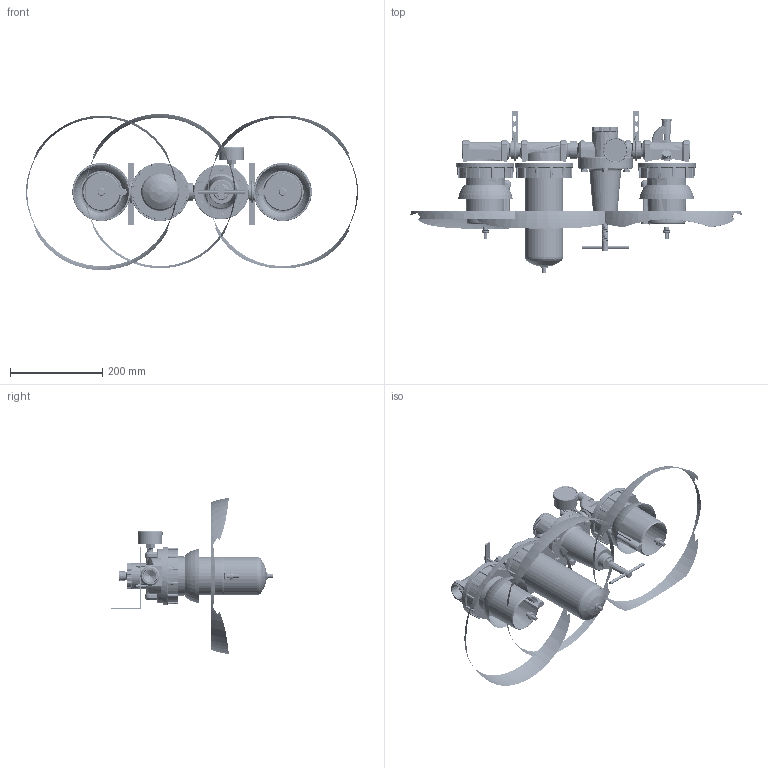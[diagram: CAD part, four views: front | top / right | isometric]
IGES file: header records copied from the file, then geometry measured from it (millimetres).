
Start section: SolidWorks IGES file using analytic representation for surfaces
Global section: file name: C:\Users\Toshiba\Desktop\A728#W#-08YB#.IGS; native system: SolidWorks 2014; preprocessor: SolidWorks 2014; author: Toshiba; date: 160216.105952; units: millimetre
Bounding box: 718.81 x 350.49 x 338.09 mm (x, y, z)
Surface area: 576258 mm2 (no closed solid volume)
Topology: 0 solids, 0 shells, 2139 faces, 26146 edges, 26111 vertices
Faces by surface type: bspline 1141, revolution 998
